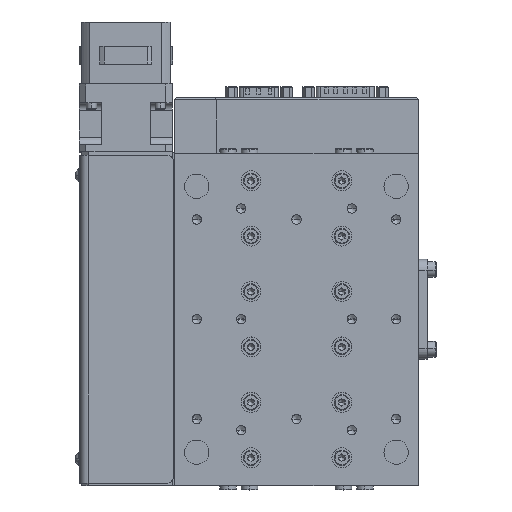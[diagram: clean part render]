
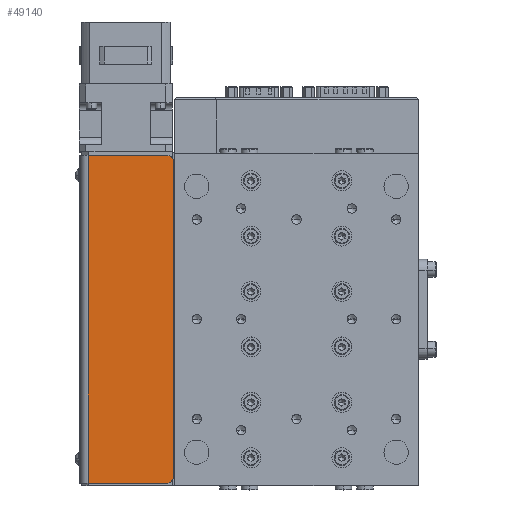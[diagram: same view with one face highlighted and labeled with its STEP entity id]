
A CAD part, top view. The second image highlights one B-rep face of the part: STEP entity #49140.
In plain terms, the highlighted planar face has unit normal (0, 0, 1).
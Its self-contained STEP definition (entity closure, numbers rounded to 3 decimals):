
#420 = VERTEX_POINT ( 'NONE', #1408 ) ;
#872 = DIRECTION ( 'NONE',  ( 1., 0., 0. ) ) ;
#1408 = CARTESIAN_POINT ( 'NONE',  ( -94., 74., 41.1 ) ) ;
#1777 = VERTEX_POINT ( 'NONE', #12283 ) ;
#2282 = LINE ( 'NONE', #17075, #17773 ) ;
#2855 = ORIENTED_EDGE ( 'NONE', *, *, #52453, .T. ) ;
#5400 = ORIENTED_EDGE ( 'NONE', *, *, #44098, .F. ) ;
#6558 = CARTESIAN_POINT ( 'NONE',  ( -94., -74., 41.1 ) ) ;
#7114 = EDGE_CURVE ( 'NONE', #47292, #49086, #34446, .T. ) ;
#7871 = DIRECTION ( 'NONE',  ( 0., 1., 0. ) ) ;
#8043 = EDGE_LOOP ( 'NONE', ( #38966, #8565, #2855, #22767, #5400, #28517 ) ) ;
#8565 = ORIENTED_EDGE ( 'NONE', *, *, #21191, .T. ) ;
#10163 = CARTESIAN_POINT ( 'NONE',  ( -94., -74., 41.1 ) ) ;
#10625 = AXIS2_PLACEMENT_3D ( 'NONE', #32115, #22736, #27190 ) ;
#12283 = CARTESIAN_POINT ( 'NONE',  ( -58.5, 74., 41.1 ) ) ;
#13564 = CARTESIAN_POINT ( 'NONE',  ( -58.5, -74., 41.1 ) ) ;
#14279 = CARTESIAN_POINT ( 'NONE',  ( -55.5, 71., 41.1 ) ) ;
#15293 = CIRCLE ( 'NONE', #19791, 3. ) ;
#15412 = FACE_OUTER_BOUND ( 'NONE', #8043, .T. ) ;
#15923 = AXIS2_PLACEMENT_3D ( 'NONE', #25749, #34407, #16512 ) ;
#16512 = DIRECTION ( 'NONE',  ( -1., 0., 0. ) ) ;
#17075 = CARTESIAN_POINT ( 'NONE',  ( -55.5, -133.391, 41.1 ) ) ;
#17113 = CIRCLE ( 'NONE', #10625, 3. ) ;
#17773 = VECTOR ( 'NONE', #7871, 1000. ) ;
#19319 = VECTOR ( 'NONE', #45942, 1000. ) ;
#19791 = AXIS2_PLACEMENT_3D ( 'NONE', #40238, #27145, #31090 ) ;
#21191 = EDGE_CURVE ( 'NONE', #47292, #44611, #17113, .T. ) ;
#22736 = DIRECTION ( 'NONE',  ( 0., 0., 1. ) ) ;
#22767 = ORIENTED_EDGE ( 'NONE', *, *, #44014, .T. ) ;
#23660 = CARTESIAN_POINT ( 'NONE',  ( -94., 74., 41.1 ) ) ;
#25749 = CARTESIAN_POINT ( 'NONE',  ( -94., -133.391, 41.1 ) ) ;
#27145 = DIRECTION ( 'NONE',  ( 0., 0., 1. ) ) ;
#27190 = DIRECTION ( 'NONE',  ( -1., 0., 0. ) ) ;
#28072 = VECTOR ( 'NONE', #46225, 1000. ) ;
#28517 = ORIENTED_EDGE ( 'NONE', *, *, #48549, .F. ) ;
#31090 = DIRECTION ( 'NONE',  ( -1., 0., 0. ) ) ;
#32006 = CARTESIAN_POINT ( 'NONE',  ( -55.5, -71., 41.1 ) ) ;
#32115 = CARTESIAN_POINT ( 'NONE',  ( -58.5, -71., 41.1 ) ) ;
#34407 = DIRECTION ( 'NONE',  ( 0., 0., -1. ) ) ;
#34446 = LINE ( 'NONE', #10163, #28072 ) ;
#38966 = ORIENTED_EDGE ( 'NONE', *, *, #7114, .F. ) ;
#39577 = PLANE ( 'NONE',  #15923 ) ;
#40238 = CARTESIAN_POINT ( 'NONE',  ( -58.5, 71., 41.1 ) ) ;
#43045 = LINE ( 'NONE', #23660, #51476 ) ;
#44014 = EDGE_CURVE ( 'NONE', #47919, #1777, #15293, .T. ) ;
#44098 = EDGE_CURVE ( 'NONE', #420, #1777, #43045, .T. ) ;
#44611 = VERTEX_POINT ( 'NONE', #32006 ) ;
#45942 = DIRECTION ( 'NONE',  ( 0., 1., 0. ) ) ;
#46225 = DIRECTION ( 'NONE',  ( -1., 0., 0. ) ) ;
#47292 = VERTEX_POINT ( 'NONE', #13564 ) ;
#47919 = VERTEX_POINT ( 'NONE', #14279 ) ;
#48549 = EDGE_CURVE ( 'NONE', #49086, #420, #55300, .T. ) ;
#49086 = VERTEX_POINT ( 'NONE', #6558 ) ;
#49140 = ADVANCED_FACE ( 'NONE', ( #15412 ), #39577, .F. ) ;
#50446 = CARTESIAN_POINT ( 'NONE',  ( -94., -133.391, 41.1 ) ) ;
#51476 = VECTOR ( 'NONE', #872, 1000. ) ;
#52453 = EDGE_CURVE ( 'NONE', #44611, #47919, #2282, .T. ) ;
#55300 = LINE ( 'NONE', #50446, #19319 ) ;
